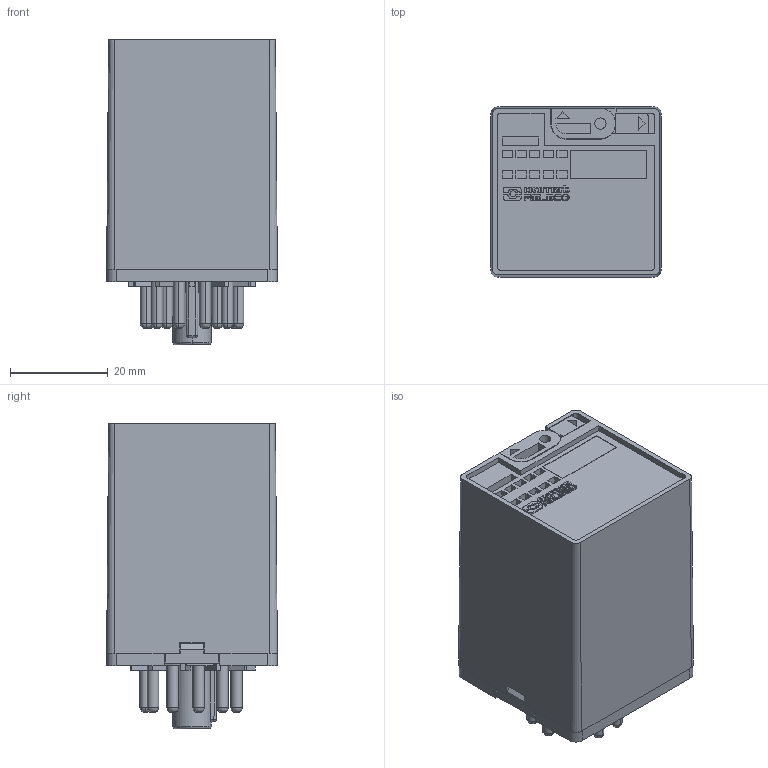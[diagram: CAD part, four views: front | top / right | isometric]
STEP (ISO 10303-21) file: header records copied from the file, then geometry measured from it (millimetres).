
FILE_DESCRIPTION (( 'STEP AP214' ), '1' );
FILE_NAME ('C31_32.STEP', '2021-01-25T09:55:26', ( '' ), ( '' ), 'SwSTEP 2.0', 'SolidWorks 2016', '' );
FILE_SCHEMA (( 'AUTOMOTIVE_DESIGN' ));
Length unit declared in the file: millimetre
Products named in the file (1): C31_32
Bounding box: 35 x 35 x 62.7 mm (x, y, z)
Volume: 57444.1 mm3; surface area: 12693.6 mm2
Topology: 1 solids, 4 shells, 558 faces, 1486 edges, 963 vertices
Faces by surface type: plane 386, bspline 89, cylinder 70, cone 8, sphere 3, torus 2
Entity records: 17804 total; most frequent: CARTESIAN_POINT 4398, ORIENTED_EDGE 2932, DIRECTION 2460, EDGE_CURVE 1466, VECTOR 1108, LINE 1108, VERTEX_POINT 959, AXIS2_PLACEMENT_3D 676
